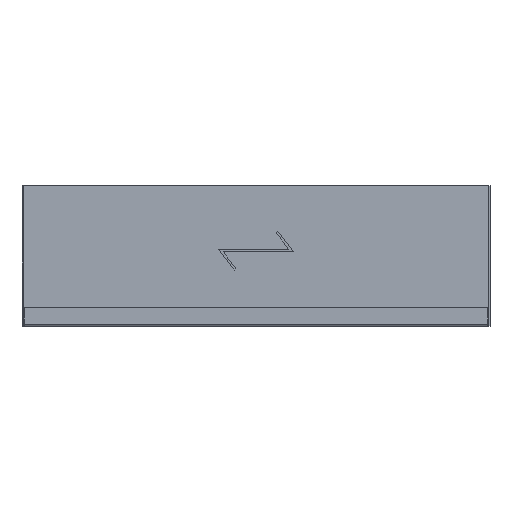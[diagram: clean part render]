
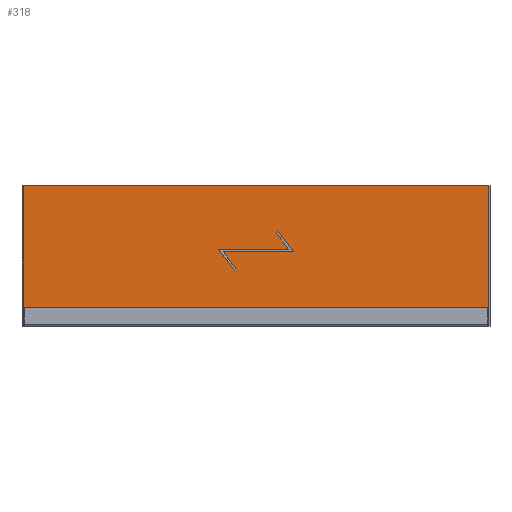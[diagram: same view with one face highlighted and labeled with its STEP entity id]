
A CAD part, top view. The second image highlights one B-rep face of the part: STEP entity #318.
In plain terms, the highlighted planar face has unit normal (0, 0, 1) as drawn and (0, 1, 0) by its records, which use the part's own axes.
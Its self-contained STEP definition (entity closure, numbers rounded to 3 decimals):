
#1 = DIRECTION ( 'NONE',  ( -0.8, 0., 0.6 ) ) ;
#31 = EDGE_CURVE ( 'NONE', #73, #1258, #1855, .T. ) ;
#32 = DIRECTION ( 'NONE',  ( 0.6, 0., 0.8 ) ) ;
#42 = VECTOR ( 'NONE', #1770, 1000. ) ;
#51 = DIRECTION ( 'NONE',  ( -1., 0., 0. ) ) ;
#68 = EDGE_CURVE ( 'NONE', #1027, #386, #1541, .T. ) ;
#73 = VERTEX_POINT ( 'NONE', #1402 ) ;
#118 = CARTESIAN_POINT ( 'NONE',  ( 497., 15., 138.5 ) ) ;
#163 = CARTESIAN_POINT ( 'NONE',  ( 80., 15., 2.5 ) ) ;
#201 = CARTESIAN_POINT ( 'NONE',  ( 77., 15., -1.5 ) ) ;
#205 = CARTESIAN_POINT ( 'NONE',  ( 73., 15., 1.5 ) ) ;
#215 = LINE ( 'NONE', #1482, #1435 ) ;
#234 = VECTOR ( 'NONE', #743, 1000. ) ;
#238 = DIRECTION ( 'NONE',  ( 0.6, 0., 0.8 ) ) ;
#278 = VERTEX_POINT ( 'NONE', #1670 ) ;
#289 = CARTESIAN_POINT ( 'NONE',  ( 43., 15., -38.5 ) ) ;
#297 = FACE_OUTER_BOUND ( 'NONE', #1880, .T. ) ;
#313 = VERTEX_POINT ( 'NONE', #118 ) ;
#318 = ADVANCED_FACE ( 'NONE', ( #738, #297 ), #869, .F. ) ;
#341 = EDGE_CURVE ( 'NONE', #407, #619, #1468, .T. ) ;
#353 = DIRECTION ( 'NONE',  ( 0., 0., -1. ) ) ;
#379 = DIRECTION ( 'NONE',  ( 1., 0., 0. ) ) ;
#386 = VERTEX_POINT ( 'NONE', #1133 ) ;
#407 = VERTEX_POINT ( 'NONE', #1459 ) ;
#472 = CARTESIAN_POINT ( 'NONE',  ( -75., 15., 2.5 ) ) ;
#481 = CARTESIAN_POINT ( 'NONE',  ( -80., 15., -2.5 ) ) ;
#498 = VECTOR ( 'NONE', #854, 1000. ) ;
#502 = CARTESIAN_POINT ( 'NONE',  ( -77., 15., 1.5 ) ) ;
#509 = LINE ( 'NONE', #201, #42 ) ;
#522 = ORIENTED_EDGE ( 'NONE', *, *, #341, .F. ) ;
#565 = EDGE_CURVE ( 'NONE', #619, #1510, #1895, .T. ) ;
#619 = VERTEX_POINT ( 'NONE', #831 ) ;
#649 = ORIENTED_EDGE ( 'NONE', *, *, #68, .T. ) ;
#661 = LINE ( 'NONE', #679, #1731 ) ;
#679 = CARTESIAN_POINT ( 'NONE',  ( -497., 15., -138.5 ) ) ;
#696 = VERTEX_POINT ( 'NONE', #1679 ) ;
#738 = FACE_BOUND ( 'NONE', #1017, .T. ) ;
#743 = DIRECTION ( 'NONE',  ( 0.8, 0., -0.6 ) ) ;
#797 = CARTESIAN_POINT ( 'NONE',  ( -43., 15., 38.5 ) ) ;
#831 = CARTESIAN_POINT ( 'NONE',  ( 70., 15., -2.5 ) ) ;
#842 = LINE ( 'NONE', #1130, #916 ) ;
#854 = DIRECTION ( 'NONE',  ( 0., 0., -1. ) ) ;
#869 = PLANE ( 'NONE',  #1040 ) ;
#886 = ORIENTED_EDGE ( 'NONE', *, *, #1245, .T. ) ;
#916 = VECTOR ( 'NONE', #1144, 1000. ) ;
#998 = LINE ( 'NONE', #1438, #1171 ) ;
#1017 = EDGE_LOOP ( 'NONE', ( #1839, #1632, #1467, #522, #886, #1320, #649, #1683 ) ) ;
#1026 = LINE ( 'NONE', #289, #234 ) ;
#1027 = VERTEX_POINT ( 'NONE', #163 ) ;
#1040 = AXIS2_PLACEMENT_3D ( 'NONE', #1155, #1610, #353 ) ;
#1094 = EDGE_CURVE ( 'NONE', #1804, #313, #215, .T. ) ;
#1113 = CARTESIAN_POINT ( 'NONE',  ( -75., 15., -2.5 ) ) ;
#1122 = DIRECTION ( 'NONE',  ( -1., 0., 0. ) ) ;
#1130 = CARTESIAN_POINT ( 'NONE',  ( -497., 15., 138.5 ) ) ;
#1133 = CARTESIAN_POINT ( 'NONE',  ( -70., 15., 2.5 ) ) ;
#1144 = DIRECTION ( 'NONE',  ( 0., 0., 1. ) ) ;
#1145 = EDGE_CURVE ( 'NONE', #386, #73, #998, .T. ) ;
#1149 = ORIENTED_EDGE ( 'NONE', *, *, #1735, .T. ) ;
#1155 = CARTESIAN_POINT ( 'NONE',  ( 0., 15., 0. ) ) ;
#1171 = VECTOR ( 'NONE', #1450, 1000. ) ;
#1225 = DIRECTION ( 'NONE',  ( -1., 0., 0. ) ) ;
#1232 = VECTOR ( 'NONE', #1, 1000. ) ;
#1245 = EDGE_CURVE ( 'NONE', #407, #696, #1026, .T. ) ;
#1258 = VERTEX_POINT ( 'NONE', #1343 ) ;
#1320 = ORIENTED_EDGE ( 'NONE', *, *, #1662, .T. ) ;
#1327 = LINE ( 'NONE', #1987, #498 ) ;
#1342 = ORIENTED_EDGE ( 'NONE', *, *, #1784, .T. ) ;
#1343 = CARTESIAN_POINT ( 'NONE',  ( -47., 15., 41.5 ) ) ;
#1402 = CARTESIAN_POINT ( 'NONE',  ( -43., 15., 38.5 ) ) ;
#1406 = VECTOR ( 'NONE', #32, 1000. ) ;
#1425 = LINE ( 'NONE', #502, #1406 ) ;
#1435 = VECTOR ( 'NONE', #379, 1000. ) ;
#1438 = CARTESIAN_POINT ( 'NONE',  ( -73., 15., -1.5 ) ) ;
#1450 = DIRECTION ( 'NONE',  ( 0.6, 0., 0.8 ) ) ;
#1459 = CARTESIAN_POINT ( 'NONE',  ( 43., 15., -38.5 ) ) ;
#1467 = ORIENTED_EDGE ( 'NONE', *, *, #565, .F. ) ;
#1468 = LINE ( 'NONE', #205, #1966 ) ;
#1479 = CARTESIAN_POINT ( 'NONE',  ( -497., 15., 138.5 ) ) ;
#1482 = CARTESIAN_POINT ( 'NONE',  ( -497., 15., 138.5 ) ) ;
#1510 = VERTEX_POINT ( 'NONE', #481 ) ;
#1522 = ORIENTED_EDGE ( 'NONE', *, *, #1094, .T. ) ;
#1541 = LINE ( 'NONE', #472, #1892 ) ;
#1577 = EDGE_CURVE ( 'NONE', #1510, #1258, #1425, .T. ) ;
#1610 = DIRECTION ( 'NONE',  ( 0., -1., 0. ) ) ;
#1611 = VERTEX_POINT ( 'NONE', #1740 ) ;
#1625 = EDGE_CURVE ( 'NONE', #1611, #1804, #842, .T. ) ;
#1632 = ORIENTED_EDGE ( 'NONE', *, *, #1577, .F. ) ;
#1634 = VECTOR ( 'NONE', #51, 1000. ) ;
#1662 = EDGE_CURVE ( 'NONE', #696, #1027, #509, .T. ) ;
#1670 = CARTESIAN_POINT ( 'NONE',  ( 497., 15., -138.5 ) ) ;
#1679 = CARTESIAN_POINT ( 'NONE',  ( 47., 15., -41.5 ) ) ;
#1683 = ORIENTED_EDGE ( 'NONE', *, *, #1145, .T. ) ;
#1731 = VECTOR ( 'NONE', #1122, 1000. ) ;
#1735 = EDGE_CURVE ( 'NONE', #278, #1611, #661, .T. ) ;
#1740 = CARTESIAN_POINT ( 'NONE',  ( -497., 15., -138.5 ) ) ;
#1770 = DIRECTION ( 'NONE',  ( 0.6, 0., 0.8 ) ) ;
#1784 = EDGE_CURVE ( 'NONE', #313, #278, #1327, .T. ) ;
#1804 = VERTEX_POINT ( 'NONE', #1479 ) ;
#1839 = ORIENTED_EDGE ( 'NONE', *, *, #31, .T. ) ;
#1855 = LINE ( 'NONE', #797, #1232 ) ;
#1880 = EDGE_LOOP ( 'NONE', ( #1342, #1149, #1955, #1522 ) ) ;
#1892 = VECTOR ( 'NONE', #1225, 1000. ) ;
#1895 = LINE ( 'NONE', #1113, #1634 ) ;
#1955 = ORIENTED_EDGE ( 'NONE', *, *, #1625, .T. ) ;
#1966 = VECTOR ( 'NONE', #238, 1000. ) ;
#1987 = CARTESIAN_POINT ( 'NONE',  ( 497., 15., 138.5 ) ) ;
